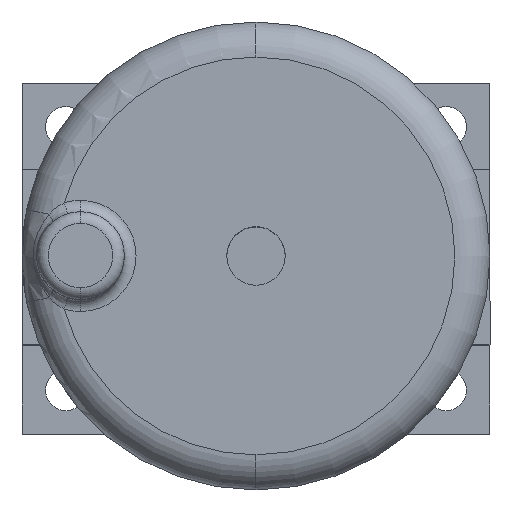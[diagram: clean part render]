
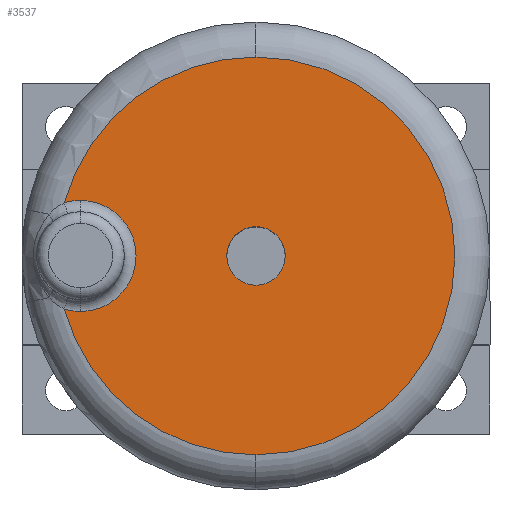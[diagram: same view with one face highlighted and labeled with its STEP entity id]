
A CAD part, top view. The second image highlights one B-rep face of the part: STEP entity #3537.
In plain terms, the highlighted planar face has unit normal (0, 0, 1) as drawn and (1, 0, 0) by its records, which use the part's own axes.
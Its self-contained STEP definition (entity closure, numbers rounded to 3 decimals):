
#10 = ORIENTED_EDGE ( 'NONE', *, *, #456, .T. ) ;
#122 = CARTESIAN_POINT ( 'NONE',  ( 46., 32.763, -9.089 ) ) ;
#147 = ORIENTED_EDGE ( 'NONE', *, *, #326, .T. ) ;
#154 = DIRECTION ( 'NONE',  ( -1., 0., 0. ) ) ;
#204 = AXIS2_PLACEMENT_3D ( 'NONE', #2393, #3176, #981 ) ;
#251 = ORIENTED_EDGE ( 'NONE', *, *, #1850, .F. ) ;
#290 = EDGE_LOOP ( 'NONE', ( #147, #1748, #2415, #778, #1964, #10 ) ) ;
#326 = EDGE_CURVE ( 'NONE', #3229, #422, #441, .T. ) ;
#348 = CARTESIAN_POINT ( 'NONE',  ( 46., 0., 0. ) ) ;
#376 = CARTESIAN_POINT ( 'NONE',  ( 46., 30., 0. ) ) ;
#392 = AXIS2_PLACEMENT_3D ( 'NONE', #2880, #2099, #2376 ) ;
#395 = CIRCLE ( 'NONE', #1618, 9.5 ) ;
#422 = VERTEX_POINT ( 'NONE', #3156 ) ;
#434 = DIRECTION ( 'NONE',  ( 0., 0., 1. ) ) ;
#441 = CIRCLE ( 'NONE', #204, 34. ) ;
#447 = FACE_OUTER_BOUND ( 'NONE', #290, .T. ) ;
#456 = EDGE_CURVE ( 'NONE', #3356, #3229, #395, .T. ) ;
#477 = CARTESIAN_POINT ( 'NONE',  ( 46., 0., 5. ) ) ;
#498 = CARTESIAN_POINT ( 'NONE',  ( 46., 30., -9.5 ) ) ;
#502 = ORIENTED_EDGE ( 'NONE', *, *, #1160, .F. ) ;
#627 = DIRECTION ( 'NONE',  ( -1., 0., 0. ) ) ;
#655 = CARTESIAN_POINT ( 'NONE',  ( 46., 30., 0. ) ) ;
#666 = DIRECTION ( 'NONE',  ( 0., 0., 1. ) ) ;
#735 = DIRECTION ( 'NONE',  ( 1., 0., 0. ) ) ;
#778 = ORIENTED_EDGE ( 'NONE', *, *, #3484, .T. ) ;
#804 = EDGE_CURVE ( 'NONE', #1149, #2969, #1816, .T. ) ;
#883 = CARTESIAN_POINT ( 'NONE',  ( 46., 0., 0. ) ) ;
#949 = EDGE_LOOP ( 'NONE', ( #251, #502 ) ) ;
#981 = DIRECTION ( 'NONE',  ( 0., 0., 1. ) ) ;
#986 = EDGE_CURVE ( 'NONE', #3223, #3356, #1422, .T. ) ;
#1149 = VERTEX_POINT ( 'NONE', #2878 ) ;
#1160 = EDGE_CURVE ( 'NONE', #1277, #2917, #1340, .T. ) ;
#1197 = DIRECTION ( 'NONE',  ( 1., 0., 0. ) ) ;
#1209 = CARTESIAN_POINT ( 'NONE',  ( 46., 0., 0. ) ) ;
#1277 = VERTEX_POINT ( 'NONE', #477 ) ;
#1340 = CIRCLE ( 'NONE', #1515, 5. ) ;
#1422 = CIRCLE ( 'NONE', #1950, 9.5 ) ;
#1449 = DIRECTION ( 'NONE',  ( 1., 0., 0. ) ) ;
#1493 = CARTESIAN_POINT ( 'NONE',  ( 46., 0., -5. ) ) ;
#1500 = PLANE ( 'NONE',  #392 ) ;
#1515 = AXIS2_PLACEMENT_3D ( 'NONE', #1209, #735, #2163 ) ;
#1547 = CARTESIAN_POINT ( 'NONE',  ( 46., 30., 0. ) ) ;
#1618 = AXIS2_PLACEMENT_3D ( 'NONE', #1547, #154, #434 ) ;
#1691 = EDGE_CURVE ( 'NONE', #422, #1149, #2165, .T. ) ;
#1748 = ORIENTED_EDGE ( 'NONE', *, *, #1691, .T. ) ;
#1816 = CIRCLE ( 'NONE', #2488, 34. ) ;
#1850 = EDGE_CURVE ( 'NONE', #2917, #1277, #2855, .T. ) ;
#1950 = AXIS2_PLACEMENT_3D ( 'NONE', #376, #627, #2647 ) ;
#1964 = ORIENTED_EDGE ( 'NONE', *, *, #986, .T. ) ;
#2099 = DIRECTION ( 'NONE',  ( -1., 0., 0. ) ) ;
#2111 = AXIS2_PLACEMENT_3D ( 'NONE', #655, #2340, #666 ) ;
#2143 = DIRECTION ( 'NONE',  ( 0., 0., 1. ) ) ;
#2163 = DIRECTION ( 'NONE',  ( 0., 0., -1. ) ) ;
#2165 = CIRCLE ( 'NONE', #2210, 34. ) ;
#2173 = AXIS2_PLACEMENT_3D ( 'NONE', #348, #1197, #2868 ) ;
#2210 = AXIS2_PLACEMENT_3D ( 'NONE', #883, #1449, #3626 ) ;
#2340 = DIRECTION ( 'NONE',  ( -1., 0., 0. ) ) ;
#2376 = DIRECTION ( 'NONE',  ( 0., 0., 1. ) ) ;
#2393 = CARTESIAN_POINT ( 'NONE',  ( 46., 0., 0. ) ) ;
#2415 = ORIENTED_EDGE ( 'NONE', *, *, #804, .T. ) ;
#2456 = DIRECTION ( 'NONE',  ( 1., 0., 0. ) ) ;
#2488 = AXIS2_PLACEMENT_3D ( 'NONE', #2996, #2456, #2143 ) ;
#2647 = DIRECTION ( 'NONE',  ( 0., 0., 1. ) ) ;
#2855 = CIRCLE ( 'NONE', #2173, 5. ) ;
#2868 = DIRECTION ( 'NONE',  ( 0., 0., -1. ) ) ;
#2878 = CARTESIAN_POINT ( 'NONE',  ( 46., 0., -34. ) ) ;
#2880 = CARTESIAN_POINT ( 'NONE',  ( 46., 0., 0. ) ) ;
#2917 = VERTEX_POINT ( 'NONE', #1493 ) ;
#2918 = CIRCLE ( 'NONE', #2111, 9.5 ) ;
#2969 = VERTEX_POINT ( 'NONE', #122 ) ;
#2996 = CARTESIAN_POINT ( 'NONE',  ( 46., 0., 0. ) ) ;
#3137 = CARTESIAN_POINT ( 'NONE',  ( 46., 30., 9.5 ) ) ;
#3156 = CARTESIAN_POINT ( 'NONE',  ( 46., 0., 34. ) ) ;
#3176 = DIRECTION ( 'NONE',  ( 1., 0., 0. ) ) ;
#3223 = VERTEX_POINT ( 'NONE', #498 ) ;
#3229 = VERTEX_POINT ( 'NONE', #3310 ) ;
#3310 = CARTESIAN_POINT ( 'NONE',  ( 46., 32.763, 9.089 ) ) ;
#3356 = VERTEX_POINT ( 'NONE', #3137 ) ;
#3470 = FACE_BOUND ( 'NONE', #949, .T. ) ;
#3484 = EDGE_CURVE ( 'NONE', #2969, #3223, #2918, .T. ) ;
#3537 = ADVANCED_FACE ( 'NONE', ( #447, #3470 ), #1500, .F. ) ;
#3626 = DIRECTION ( 'NONE',  ( 0., 0., 1. ) ) ;
